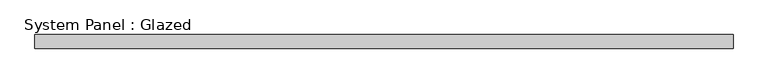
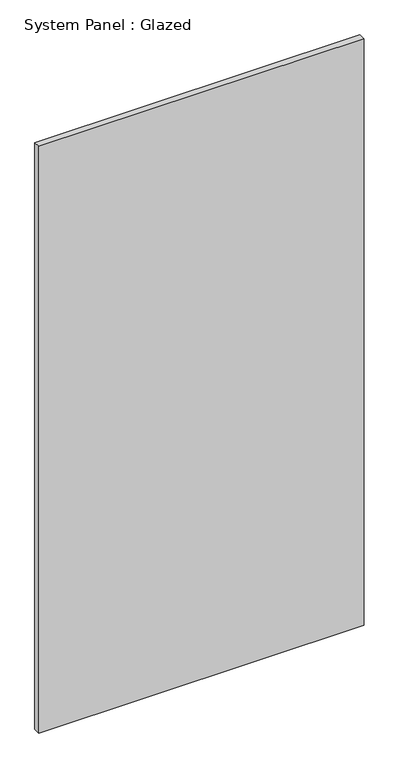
"""IFC4 building model written with IfcOpenShell, lengths in millimetres: plate geometry, System Panel : Glazed."""

from ifc_helpers import new_model, si_unit, origin, origin_with_axes, place, context, project, spatial, polyline, outline, extrude, source, transform, mapped, element, save


def system_panel_glazed_0d527a17(model_context):
    return source(origin(), model_context, "Body", "SweptSolid", [
        extrude(outline(polyline([(620.2777778, -49.5), (-620.2777778, -49.5), (-620.2777778, -24.5), (620.2777778, -24.5), (620.2777778, -49.5)])), origin_with_axes(), (0.0, 0.0, 1.0), 2363.4),
    ])


if __name__ == "__main__":
    model = new_model("IFC4")
    model_context = context("Model", 3, world=origin())
    ifc_project = project(units=[si_unit("LENGTHUNIT", "METRE", prefix="MILLI")], contexts=[model_context])
    site = spatial("IfcSite", under=ifc_project)
    building = spatial("IfcBuilding", under=site)
    placement = place(None, origin())
    system_panel_glazed_shape = system_panel_glazed_0d527a17(model_context)
    element("IfcPlate", 1, ObjectType="System Panel : Glazed", at=placement, inside=building, context=model_context, shape_type="MappedRepresentation", body=[
        mapped(system_panel_glazed_shape, transform((0.0, 0.0, 0.0), x_axis=(1.0, 0.0, 0.0), y_axis=(0.0, 1.0, 0.0), z_axis=(0.0, 0.0, 1.0))),
    ])
    save(model, "model.ifc")
